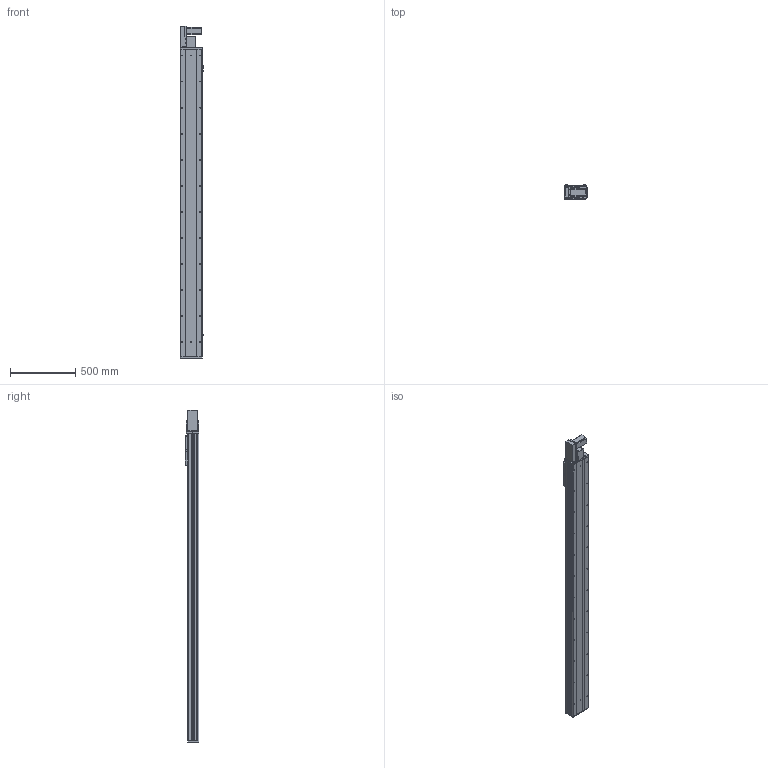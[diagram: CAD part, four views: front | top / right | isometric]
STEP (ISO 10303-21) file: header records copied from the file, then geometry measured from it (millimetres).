
FILE_DESCRIPTION (( 'STEP AP203' ), '1' );
FILE_NAME ('Y170CB-D105-S2050-BL-P400W.STEP', '2020-02-20T01:38:16', ( '微软用户' ), ( '微软中国' ), 'SwSTEP 2.0', 'SolidWorks 2017', '' );
FILE_SCHEMA (( 'CONFIG_CONTROL_DESIGN' ));
Length unit declared in the file: millimetre
Products named in the file (18): Y1埴倛裔; 70C--詩湍揤踡え-; B-源倛裔啣; Y170CB-D105-S2050-BL-P400W; 70CB--耜裔; 17B-耜蚾蟀諉啣----; 70C-雄赽釱-奻-; 0B-萇儂楊擘啣; 0C--雄赽釱俋欶-170; san松下电机400不带刹车----; 70CB-詩湍--; Y70俋欶BR----; Y100-135俋离換覜ん--; 70CB-掛极-; Y170CB-陔俋离換覜結え---; --70CB --喘謫眊楊擘啣-; 70B喘謫眊----; 70CB-耜裔啣-
Assembly tree (21 placements, depth 2):
  Y170CB-D105-S2050-BL-P400W
    B-源倛裔啣
    17B-耜蚾蟀諉啣----
    0B-萇儂楊擘啣
    san松下电机400不带刹车----
    Y70俋欶BR----
    70CB-掛极-
    --70CB --喘謫眊楊擘啣-
    70CB-耜裔啣-  x2
    70C--詩湍揤踡え-  x2
    70CB--耜裔
    70C-雄赽釱-奻-
    0C--雄赽釱俋欶-170
    70CB-詩湍--
    Y100-135俋离換覜ん--  x3
    Y170CB-陔俋离換覜結え---
    70B喘謫眊----
    Y1埴倛裔
Bounding box: 183.5 x 107 x 2547 mm (x, y, z)
Volume: 10672171.1 mm3; surface area: 3846358.6 mm2
Topology: 21 solids, 21 shells, 1047 faces, 2813 edges, 1866 vertices
Faces by surface type: cylinder 559, plane 464, cone 24
Entity records: 33488 total; most frequent: CARTESIAN_POINT 6156, DIRECTION 5446, ORIENTED_EDGE 5108, EDGE_CURVE 2554, AXIS2_PLACEMENT_3D 2004, VERTEX_POINT 1696, VECTOR 1438, LINE 1438
